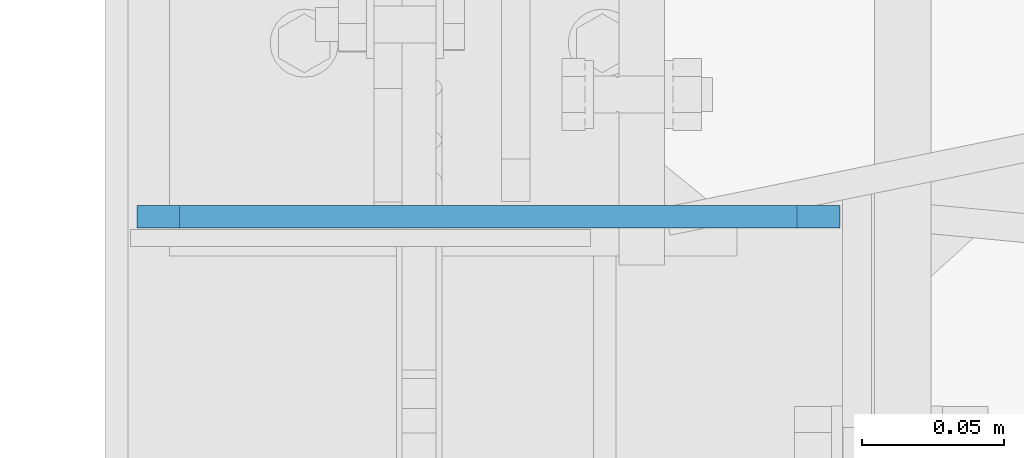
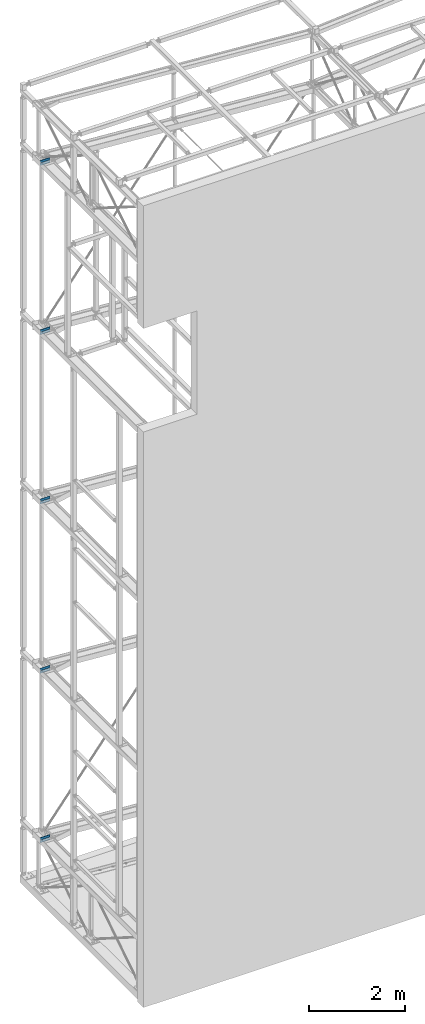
# One storey, part 145 of 271: 10 plates, 5 elements without a shape of their own.
"""IFC2X3 building model written with IfcOpenShell, lengths in millimetres."""

from ifc_helpers import new_model, si_unit, frame, origin_with_axes, place, context, subcontext, project, spatial, polyline, outline, extrude, material, type_object, element, aggregate, save


model = new_model("IFC2X3")

# Units and contexts
model_context = context("Model", 3, precision=1e-05, world=origin_with_axes())
body_context = subcontext(model_context, "Body", "Model", "MODEL_VIEW")
ifc_project = project(units=[si_unit("LENGTHUNIT", "METRE", prefix="MILLI"), si_unit("AREAUNIT", "SQUARE_METRE"), si_unit("VOLUMEUNIT", "CUBIC_METRE"), si_unit("MASSUNIT", "GRAM", prefix="KILO"), si_unit("TIMEUNIT", "SECOND"), si_unit("PLANEANGLEUNIT", "RADIAN"), si_unit("SOLIDANGLEUNIT", "STERADIAN"), si_unit("THERMODYNAMICTEMPERATUREUNIT", "DEGREE_CELSIUS"), si_unit("LUMINOUSINTENSITYUNIT", "LUMEN")], contexts=[model_context])

# Site, building, storey
site_placement = place(None, origin_with_axes())
site = spatial("IfcSite", under=ifc_project, at=site_placement, Name="Undefined", CompositionType="ELEMENT")
building_placement = place(site_placement, origin_with_axes())
building = spatial("IfcBuilding", under=site, at=building_placement, Name="Undefined", CompositionType="ELEMENT")
storey_placement = place(building_placement, origin_with_axes())
storey = spatial("IfcBuildingStorey", under=building, at=storey_placement, Name="Undefined", CompositionType="ELEMENT", Elevation=0.0)

# Assembly, plates
assembly_1_placement = place(storey_placement, origin_with_axes())
assembly_1 = element("IfcElementAssembly", 1, at=assembly_1_placement, inside=storey, AssemblyPlace="NOTDEFINED", PredefinedType="RIGID_FRAME")
ifc_material = material(Name="STEEL/S355JR")
plate_type = type_object("IfcPlateType", Name="BL8*60", PredefinedType="NOTDEFINED")
plate_1_placement = place(assembly_1_placement, frame((247.175687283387, 4147.85328609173, 18707.649999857), z_axis=(0.0, 1.0, 0.0), x_axis=(0.0, 0.0, -1.0)))
plate_1 = element("IfcPlate", 2, at=plate_1_placement, type_object=plate_type, material=ifc_material, Name="BLACHA", ObjectType="BL8*60", context=body_context, shape_type="SweptSolid", body=[
    extrude(outline(polyline([(0.0, 0.0), (45.0, 0.0), (60.0, 15.0), (60.0, 232.600006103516), (45.0, 247.600006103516), (0.0, 247.600006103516), (0.0, 0.0)])), frame((0.0, 0.0, -4.0), z_axis=(0.0, 0.0, 1.0), x_axis=(1.0, 0.0, 0.0)), (0.0, 0.0, 1.0), 8.0),
])
plate_2_placement = place(assembly_1_placement, frame((247.175687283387, 4147.85328609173, 18581.049999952), z_axis=(0.0, -1.0, 0.0), x_axis=(0.0, 0.0, 1.0)))
plate_2 = element("IfcPlate", 3, at=plate_2_placement, type_object=plate_type, material=ifc_material, Name="BLACHA", ObjectType="BL8*60", context=body_context, shape_type="SweptSolid", body=[
    extrude(outline(polyline([(0.0, 0.0), (45.0, 0.0), (60.0, 15.0), (60.0, 232.600006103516), (45.0, 247.600006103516), (0.0, 247.600006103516), (0.0, 0.0)])), frame((0.0, 0.0, -4.0), z_axis=(0.0, 0.0, 1.0), x_axis=(1.0, 0.0, 0.0)), (0.0, 0.0, 1.0), 8.0),
])
aggregate(assembly_1, [plate_1, plate_2])

assembly_2_placement = place(storey_placement, origin_with_axes())
assembly_2 = element("IfcElementAssembly", 4, at=assembly_2_placement, inside=storey, AssemblyPlace="NOTDEFINED", PredefinedType="RIGID_FRAME")
plate_3_placement = place(assembly_2_placement, frame((247.175687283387, 4147.85328609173, 14387.649999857), z_axis=(0.0, 1.0, 0.0), x_axis=(0.0, 0.0, -1.0)))
plate_3 = element("IfcPlate", 5, at=plate_3_placement, type_object=plate_type, material=ifc_material, Name="BLACHA", ObjectType="BL8*60", context=body_context, shape_type="SweptSolid", body=[
    extrude(outline(polyline([(0.0, 0.0), (45.0, 0.0), (60.0, 15.0), (60.0, 232.600006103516), (45.0, 247.600006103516), (0.0, 247.600006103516), (0.0, 0.0)])), frame((0.0, 0.0, -4.0), z_axis=(0.0, 0.0, 1.0), x_axis=(1.0, 0.0, 0.0)), (0.0, 0.0, 1.0), 8.0),
])
plate_4_placement = place(assembly_2_placement, frame((247.175687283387, 4147.85328609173, 14261.049999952), z_axis=(0.0, -1.0, 0.0), x_axis=(0.0, 0.0, 1.0)))
plate_4 = element("IfcPlate", 6, at=plate_4_placement, type_object=plate_type, material=ifc_material, Name="BLACHA", ObjectType="BL8*60", context=body_context, shape_type="SweptSolid", body=[
    extrude(outline(polyline([(0.0, 0.0), (45.0, 0.0), (60.0, 15.0), (60.0, 232.600006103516), (45.0, 247.600006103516), (0.0, 247.600006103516), (0.0, 0.0)])), frame((0.0, 0.0, -4.0), z_axis=(0.0, 0.0, 1.0), x_axis=(1.0, 0.0, 0.0)), (0.0, 0.0, 1.0), 8.0),
])
aggregate(assembly_2, [plate_3, plate_4])

assembly_3_placement = place(storey_placement, origin_with_axes())
assembly_3 = element("IfcElementAssembly", 7, at=assembly_3_placement, inside=storey, AssemblyPlace="NOTDEFINED", PredefinedType="RIGID_FRAME")
plate_5_placement = place(assembly_3_placement, frame((247.175687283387, 4147.85328609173, 10067.649999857), z_axis=(0.0, 1.0, 0.0), x_axis=(0.0, 0.0, -1.0)))
plate_5 = element("IfcPlate", 8, at=plate_5_placement, type_object=plate_type, material=ifc_material, Name="BLACHA", ObjectType="BL8*60", context=body_context, shape_type="SweptSolid", body=[
    extrude(outline(polyline([(0.0, 0.0), (45.0, 0.0), (60.0, 15.0), (60.0, 232.600006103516), (45.0, 247.600006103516), (0.0, 247.600006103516), (0.0, 0.0)])), frame((0.0, 0.0, -4.0), z_axis=(0.0, 0.0, 1.0), x_axis=(1.0, 0.0, 0.0)), (0.0, 0.0, 1.0), 8.0),
])
plate_6_placement = place(assembly_3_placement, frame((247.175687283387, 4147.85328609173, 9941.04999995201), z_axis=(0.0, -1.0, 0.0), x_axis=(0.0, 0.0, 1.0)))
plate_6 = element("IfcPlate", 9, at=plate_6_placement, type_object=plate_type, material=ifc_material, Name="BLACHA", ObjectType="BL8*60", context=body_context, shape_type="SweptSolid", body=[
    extrude(outline(polyline([(0.0, 0.0), (45.0, 0.0), (60.0, 15.0), (60.0, 232.600006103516), (45.0, 247.600006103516), (0.0, 247.600006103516), (0.0, 0.0)])), frame((0.0, 0.0, -4.0), z_axis=(0.0, 0.0, 1.0), x_axis=(1.0, 0.0, 0.0)), (0.0, 0.0, 1.0), 8.0),
])
aggregate(assembly_3, [plate_5, plate_6])

assembly_4_placement = place(storey_placement, origin_with_axes())
assembly_4 = element("IfcElementAssembly", 10, at=assembly_4_placement, inside=storey, AssemblyPlace="NOTDEFINED", PredefinedType="RIGID_FRAME")
plate_7_placement = place(assembly_4_placement, frame((247.175687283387, 4147.85328609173, 5747.64999985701), z_axis=(0.0, 1.0, 0.0), x_axis=(0.0, 0.0, -1.0)))
plate_7 = element("IfcPlate", 11, at=plate_7_placement, type_object=plate_type, material=ifc_material, Name="BLACHA", ObjectType="BL8*60", context=body_context, shape_type="SweptSolid", body=[
    extrude(outline(polyline([(0.0, 0.0), (45.0, 0.0), (60.0, 15.0), (60.0, 232.600006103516), (45.0, 247.600006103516), (0.0, 247.600006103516), (0.0, 0.0)])), frame((0.0, 0.0, -4.0), z_axis=(0.0, 0.0, 1.0), x_axis=(1.0, 0.0, 0.0)), (0.0, 0.0, 1.0), 8.0),
])
plate_8_placement = place(assembly_4_placement, frame((247.175687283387, 4147.85328609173, 5621.04999995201), z_axis=(0.0, -1.0, 0.0), x_axis=(0.0, 0.0, 1.0)))
plate_8 = element("IfcPlate", 12, at=plate_8_placement, type_object=plate_type, material=ifc_material, Name="BLACHA", ObjectType="BL8*60", context=body_context, shape_type="SweptSolid", body=[
    extrude(outline(polyline([(0.0, 0.0), (45.0, 0.0), (60.0, 15.0), (60.0, 232.600006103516), (45.0, 247.600006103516), (0.0, 247.600006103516), (0.0, 0.0)])), frame((0.0, 0.0, -4.0), z_axis=(0.0, 0.0, 1.0), x_axis=(1.0, 0.0, 0.0)), (0.0, 0.0, 1.0), 8.0),
])
aggregate(assembly_4, [plate_7, plate_8])

assembly_5_placement = place(storey_placement, origin_with_axes())
assembly_5 = element("IfcElementAssembly", 13, at=assembly_5_placement, inside=storey, AssemblyPlace="NOTDEFINED", PredefinedType="RIGID_FRAME")
plate_9_placement = place(assembly_5_placement, frame((247.175687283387, 4147.85328609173, 1427.64999985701), z_axis=(0.0, 1.0, 0.0), x_axis=(0.0, 0.0, -1.0)))
plate_9 = element("IfcPlate", 14, at=plate_9_placement, type_object=plate_type, material=ifc_material, Name="BLACHA", ObjectType="BL8*60", context=body_context, shape_type="SweptSolid", body=[
    extrude(outline(polyline([(0.0, 0.0), (45.0, 0.0), (60.0, 15.0), (60.0, 232.600006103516), (45.0, 247.600006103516), (0.0, 247.600006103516), (0.0, 0.0)])), frame((0.0, 0.0, -4.0), z_axis=(0.0, 0.0, 1.0), x_axis=(1.0, 0.0, 0.0)), (0.0, 0.0, 1.0), 8.0),
])
plate_10_placement = place(assembly_5_placement, frame((247.175687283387, 4147.85328609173, 1301.04999995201), z_axis=(0.0, -1.0, 0.0), x_axis=(0.0, 0.0, 1.0)))
plate_10 = element("IfcPlate", 15, at=plate_10_placement, type_object=plate_type, material=ifc_material, Name="BLACHA", ObjectType="BL8*60", context=body_context, shape_type="SweptSolid", body=[
    extrude(outline(polyline([(0.0, 0.0), (45.0, 0.0), (60.0, 15.0), (60.0, 232.600006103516), (45.0, 247.600006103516), (0.0, 247.600006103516), (0.0, 0.0)])), frame((0.0, 0.0, -4.0), z_axis=(0.0, 0.0, 1.0), x_axis=(1.0, 0.0, 0.0)), (0.0, 0.0, 1.0), 8.0),
])
aggregate(assembly_5, [plate_9, plate_10])

save(model, "model.ifc")
